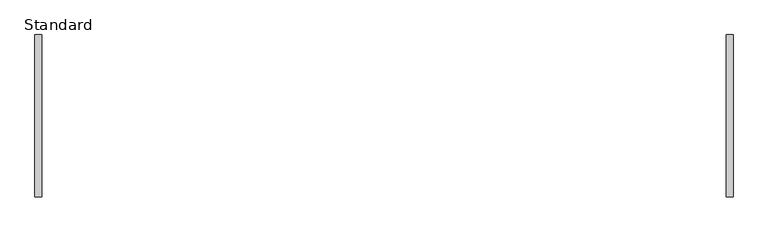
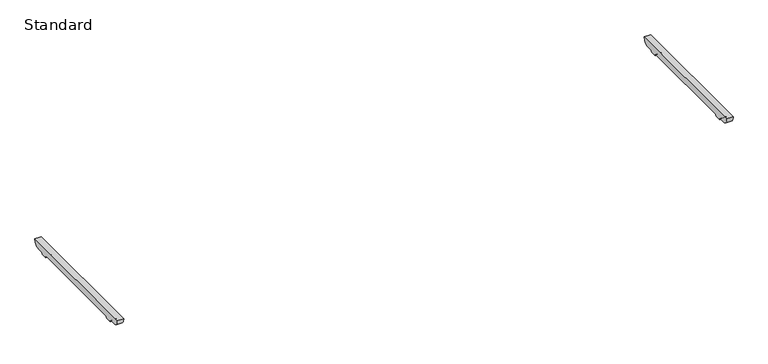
"""IFC4 building model written with IfcOpenShell, lengths in millimetres: furniture geometry, BDG_BossDesign_Tbls_AgentTables4Legs_Nested : Standard."""

from ifc_helpers import new_model, si_unit, point, frame, frame_2d, origin, place, context, project, spatial, polyline, circle_curve, trimmed, segment, composite_curve, outline, extrude, source, transform, mapped, element, save


def standard_bcc122a8(model_context):
    return source(origin(), model_context, "Body", "SweptSolid", [
        extrude(outline(composite_curve([segment(polyline([(480.5450184, 672.0), (442.7000122, 672.0)]), True, "CONTINUOUS"), segment(trimmed(circle_curve(frame_2d((442.7000122, 660.0)), 12.0), [point((442.7000122, 672.0))], [point((430.7000122, 660.0))], True, "CARTESIAN"), True, "CONTINUOUS"), segment(polyline([(430.7000122, 660.0), (385.7000122, 660.0)]), True, "CONTINUOUS"), segment(trimmed(circle_curve(frame_2d((373.7000122, 660.0)), 12.0), [point((385.7000122, 660.0))], [point((373.7000122, 672.0))], True, "CARTESIAN"), True, "CONTINUOUS"), segment(polyline([(373.7000122, 672.0), (-373.7000122, 672.0)]), True, "CONTINUOUS"), segment(trimmed(circle_curve(frame_2d((-373.7000122, 660.0)), 12.0), [point((-373.7000122, 672.0))], [point((-385.7000122, 660.0))], True, "CARTESIAN"), True, "CONTINUOUS"), segment(polyline([(-385.7000122, 660.0), (-430.7000122, 660.0)]), True, "CONTINUOUS"), segment(trimmed(circle_curve(frame_2d((-442.7000122, 660.0)), 12.0), [point((-430.7000122, 660.0))], [point((-442.7000122, 672.0))], True, "CARTESIAN"), True, "CONTINUOUS"), segment(polyline([(-442.7000122, 672.0), (-480.5450184, 672.0)]), True, "CONTINUOUS"), segment(trimmed(circle_curve(frame_2d((-478.2220439, 716.5514119)), 44.6119324), [point((-480.5450184, 672.0))], [point((-522.5, 722.0))], False, "CARTESIAN"), True, "CONTINUOUS"), segment(polyline([(-522.5, 722.0), (522.5, 722.0)]), True, "CONTINUOUS"), segment(trimmed(circle_curve(frame_2d((478.2220439, 716.5514119)), 44.6119324), [point((522.5, 722.0))], [point((480.5450184, 672.0))], False, "CARTESIAN"), True, "CONTINUOUS")], self_intersect=False)), frame((2205.0, 0.0, 0.0), z_axis=(1.0, 0.0, 0.0), x_axis=(0.0, 1.0, 0.0)), (0.0, 0.0, 1.0), 45.0),
        extrude(outline(composite_curve([segment(polyline([(480.5450184, 672.0), (442.7000122, 672.0)]), True, "CONTINUOUS"), segment(trimmed(circle_curve(frame_2d((442.7000122, 660.0)), 12.0), [point((442.7000122, 672.0))], [point((430.7000122, 660.0))], True, "CARTESIAN"), True, "CONTINUOUS"), segment(polyline([(430.7000122, 660.0), (385.7000122, 660.0)]), True, "CONTINUOUS"), segment(trimmed(circle_curve(frame_2d((373.7000122, 660.0)), 12.0), [point((385.7000122, 660.0))], [point((373.7000122, 672.0))], True, "CARTESIAN"), True, "CONTINUOUS"), segment(polyline([(373.7000122, 672.0), (-373.7000122, 672.0)]), True, "CONTINUOUS"), segment(trimmed(circle_curve(frame_2d((-373.7000122, 660.0)), 12.0), [point((-373.7000122, 672.0))], [point((-385.7000122, 660.0))], True, "CARTESIAN"), True, "CONTINUOUS"), segment(polyline([(-385.7000122, 660.0), (-430.7000122, 660.0)]), True, "CONTINUOUS"), segment(trimmed(circle_curve(frame_2d((-442.7000122, 660.0)), 12.0), [point((-430.7000122, 660.0))], [point((-442.7000122, 672.0))], True, "CARTESIAN"), True, "CONTINUOUS"), segment(polyline([(-442.7000122, 672.0), (-480.5450184, 672.0)]), True, "CONTINUOUS"), segment(trimmed(circle_curve(frame_2d((-478.2220439, 716.5514119)), 44.6119324), [point((-480.5450184, 672.0))], [point((-522.5, 722.0))], False, "CARTESIAN"), True, "CONTINUOUS"), segment(polyline([(-522.5, 722.0), (522.5, 722.0)]), True, "CONTINUOUS"), segment(trimmed(circle_curve(frame_2d((478.2220439, 716.5514119)), 44.6119324), [point((522.5, 722.0))], [point((480.5450184, 672.0))], False, "CARTESIAN"), True, "CONTINUOUS")], self_intersect=False)), frame((-2250.0, 0.0, 0.0), z_axis=(1.0, 0.0, 0.0), x_axis=(0.0, 1.0, 0.0)), (0.0, 0.0, 1.0), 45.0),
    ])


if __name__ == "__main__":
    model = new_model("IFC4")
    model_context = context("Model", 3, world=origin())
    ifc_project = project(units=[si_unit("LENGTHUNIT", "METRE", prefix="MILLI")], contexts=[model_context])
    site = spatial("IfcSite", under=ifc_project)
    building = spatial("IfcBuilding", under=site)
    placement = place(None, origin())
    standard_shape = standard_bcc122a8(model_context)
    element("IfcFurniture", 1, ObjectType="BDG_BossDesign_Tbls_AgentTables4Legs_Nested : Standard", at=placement, inside=building, context=model_context, shape_type="MappedRepresentation", body=[
        mapped(standard_shape, transform((0.0, 0.0, 0.0), x_axis=(1.0, 0.0, 0.0), y_axis=(0.0, 1.0, 0.0), z_axis=(0.0, 0.0, 1.0))),
    ])
    save(model, "model.ifc")
